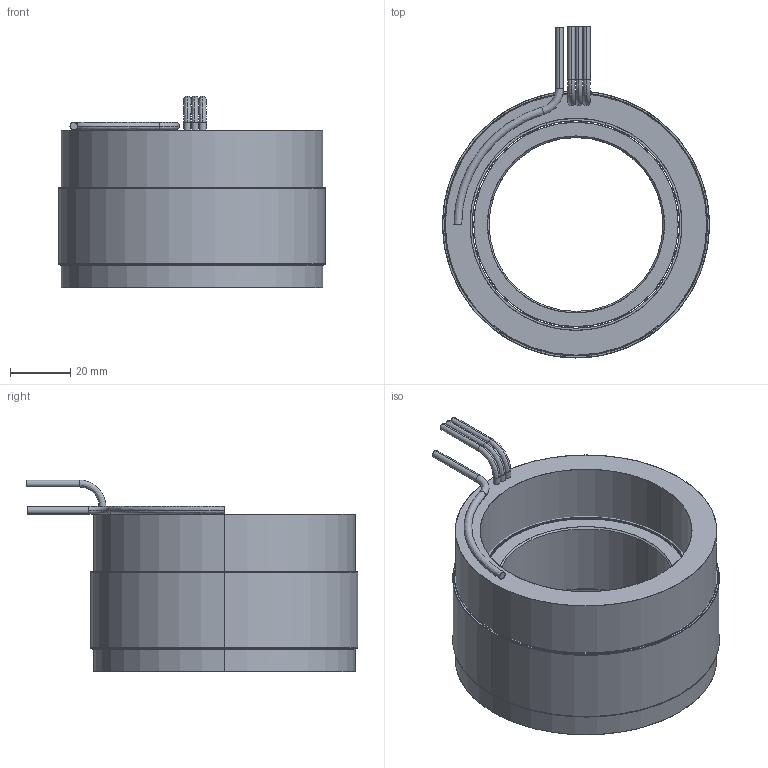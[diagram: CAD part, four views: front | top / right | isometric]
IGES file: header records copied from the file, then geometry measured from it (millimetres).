
Start section: SolidWorks IGES file using analytic representation for surfaces
Global section: file name: \\fs01.aveox.local\user documents\eng\My Documents\6100394-XX STATOR AND ROTOR SET, UT-3500-24P3, SENSORLESS\6100394-02.IGS; native system: SolidWorks 2016; preprocessor: SolidWorks 2016; author: eng; date: 201214.193235; units: inch
Bounding box: 88.9 x 110.49 x 63.88 mm (x, y, z)
Surface area: 80189.2 mm2 (no closed solid volume)
Topology: 0 solids, 0 shells, 75 faces, 2288 edges, 2288 vertices
Faces by surface type: revolution 46, bspline 29
